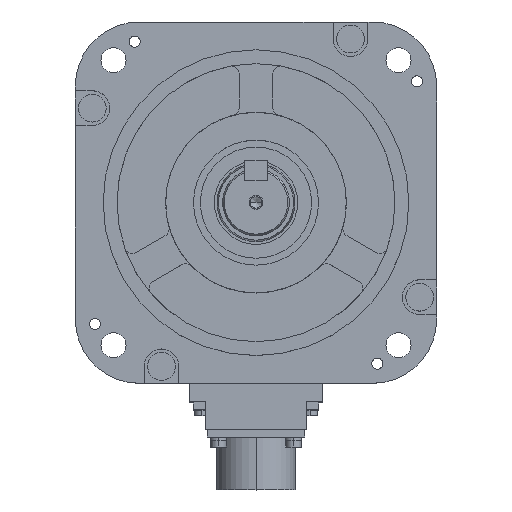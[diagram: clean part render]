
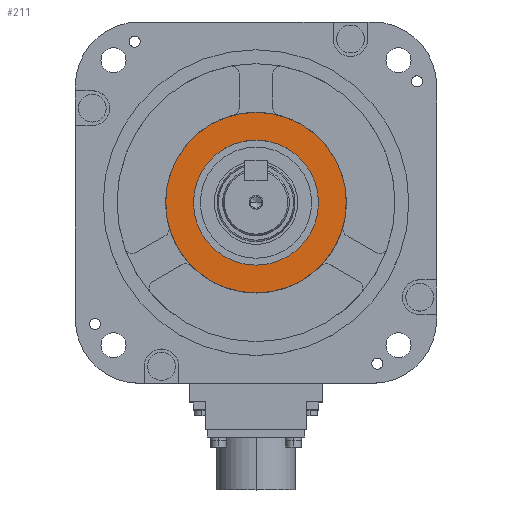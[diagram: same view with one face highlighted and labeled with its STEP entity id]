
A CAD part, top view. The second image highlights one B-rep face of the part: STEP entity #211.
In plain terms, the highlighted planar face has unit normal (0, 0, 1).
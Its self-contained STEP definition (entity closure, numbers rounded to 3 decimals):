
#211=ADVANCED_FACE('',(#1884,#1885),#1883,.T.);
#1883=PLANE('',#9110);
#1884=FACE_OUTER_BOUND('',#9111,.T.);
#1885=FACE_BOUND('',#9112,.T.);
#9107=CARTESIAN_POINT('',(-66.292,-74.75,6.));
#9108=DIRECTION('',(0.,0.,1.));
#9109=DIRECTION('',(1.,0.,0.));
#9110=AXIS2_PLACEMENT_3D('',#9107,#9108,#9109);
#9111=EDGE_LOOP('',(#13015,#13016));
#9112=EDGE_LOOP('',(#13017,#13018));
#13015=ORIENTED_EDGE('',*,*,#17073,.F.);
#13016=ORIENTED_EDGE('',*,*,#17074,.F.);
#13017=ORIENTED_EDGE('',*,*,#17075,.T.);
#13018=ORIENTED_EDGE('',*,*,#17076,.T.);
#17073=EDGE_CURVE('',#21087,#21088,#21089,.T.);
#17074=EDGE_CURVE('',#21088,#21087,#21095,.T.);
#17075=EDGE_CURVE('',#21101,#21102,#21103,.T.);
#17076=EDGE_CURVE('',#21102,#21101,#21109,.T.);
#21087=VERTEX_POINT('',#34037);
#21088=VERTEX_POINT('',#34038);
#21089=CIRCLE('',#34042,32.5);
#21095=CIRCLE('',#34046,32.5);
#21101=VERTEX_POINT('',#34047);
#21102=VERTEX_POINT('',#34048);
#21103=CIRCLE('',#34052,22.5);
#21109=CIRCLE('',#34056,22.5);
#34037=CARTESIAN_POINT('',(0.,-32.5,6.));
#34038=CARTESIAN_POINT('',(0.,32.5,6.));
#34039=CARTESIAN_POINT('',(0.,0.,6.));
#34040=DIRECTION('',(0.,0.,-1.));
#34041=DIRECTION('',(0.,1.,0.));
#34042=AXIS2_PLACEMENT_3D('',#34039,#34040,#34041);
#34043=CARTESIAN_POINT('',(0.,0.,6.));
#34044=DIRECTION('',(0.,0.,-1.));
#34045=DIRECTION('',(0.,1.,0.));
#34046=AXIS2_PLACEMENT_3D('',#34043,#34044,#34045);
#34047=CARTESIAN_POINT('',(0.,-22.5,6.));
#34048=CARTESIAN_POINT('',(0.,22.5,6.));
#34049=CARTESIAN_POINT('',(0.,0.,6.));
#34050=DIRECTION('',(0.,0.,-1.));
#34051=DIRECTION('',(0.,-1.,0.));
#34052=AXIS2_PLACEMENT_3D('',#34049,#34050,#34051);
#34053=CARTESIAN_POINT('',(0.,0.,6.));
#34054=DIRECTION('',(0.,0.,-1.));
#34055=DIRECTION('',(0.,-1.,0.));
#34056=AXIS2_PLACEMENT_3D('',#34053,#34054,#34055);
